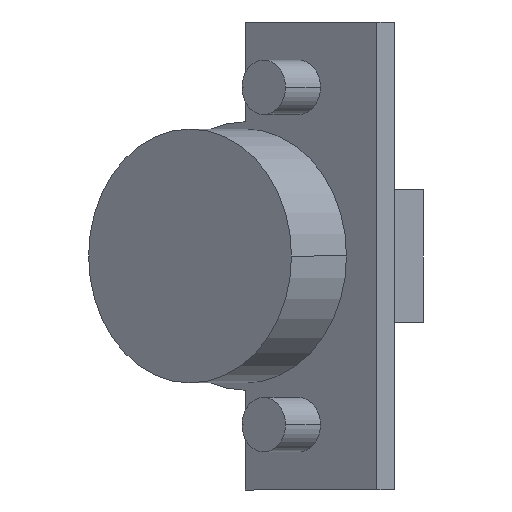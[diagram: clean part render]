
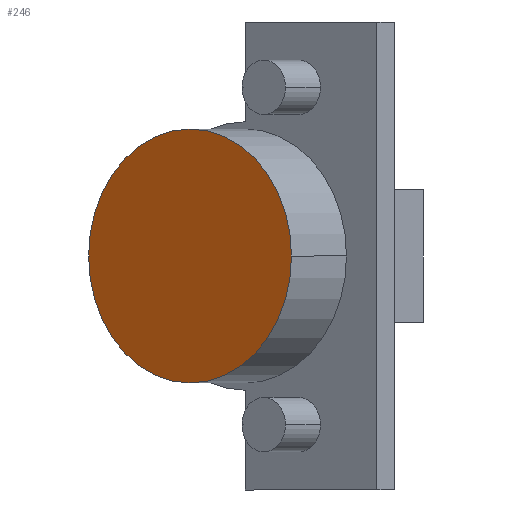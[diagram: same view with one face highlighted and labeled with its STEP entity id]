
A CAD part, front view. The second image highlights one B-rep face of the part: STEP entity #246.
In plain terms, the highlighted planar face has unit normal (-0.602, -0.799, 0).
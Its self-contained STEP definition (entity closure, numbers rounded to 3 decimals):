
#42 = ORIENTED_EDGE ( 'NONE', *, *, #881, .T. ) ;
#43 = ORIENTED_EDGE ( 'NONE', *, *, #765, .T. ) ;
#246 = ADVANCED_FACE ( 'NONE', ( #478 ), #1294, .T. ) ;
#369 = EDGE_LOOP ( 'NONE', ( #42, #43 ) ) ;
#478 = FACE_OUTER_BOUND ( 'NONE', #369, .T. ) ;
#501 = CIRCLE ( 'NONE', #958, 17.5 ) ;
#712 = CIRCLE ( 'NONE', #984, 17.5 ) ;
#765 = EDGE_CURVE ( 'NONE', #1060, #1068, #501, .T. ) ;
#881 = EDGE_CURVE ( 'NONE', #1068, #1060, #712, .T. ) ;
#954 = AXIS2_PLACEMENT_3D ( 'NONE', #1293, #1296, #1297 ) ;
#958 = AXIS2_PLACEMENT_3D ( 'NONE', #1333, #1334, #1335 ) ;
#984 = AXIS2_PLACEMENT_3D ( 'NONE', #1568, #1574, #1575 ) ;
#1060 = VERTEX_POINT ( 'NONE', #1669 ) ;
#1068 = VERTEX_POINT ( 'NONE', #1677 ) ;
#1293 = CARTESIAN_POINT ( 'NONE',  ( -6.333, -10.063, 0. ) ) ;
#1294 = PLANE ( 'NONE',  #954 ) ;
#1296 = DIRECTION ( 'NONE',  ( -0.602, -0.799, 0. ) ) ;
#1297 = DIRECTION ( 'NONE',  ( 0.799, -0.602, 0. ) ) ;
#1333 = CARTESIAN_POINT ( 'NONE',  ( -6.333, -10.063, 0. ) ) ;
#1334 = DIRECTION ( 'NONE',  ( -0.602, -0.799, 0. ) ) ;
#1335 = DIRECTION ( 'NONE',  ( 0.799, -0.602, 0. ) ) ;
#1568 = CARTESIAN_POINT ( 'NONE',  ( -6.333, -10.063, 0. ) ) ;
#1574 = DIRECTION ( 'NONE',  ( -0.602, -0.799, 0. ) ) ;
#1575 = DIRECTION ( 'NONE',  ( 0.799, -0.602, 0. ) ) ;
#1669 = CARTESIAN_POINT ( 'NONE',  ( 7.643, -20.595, 0. ) ) ;
#1677 = CARTESIAN_POINT ( 'NONE',  ( -20.309, 0.469, 0. ) ) ;
